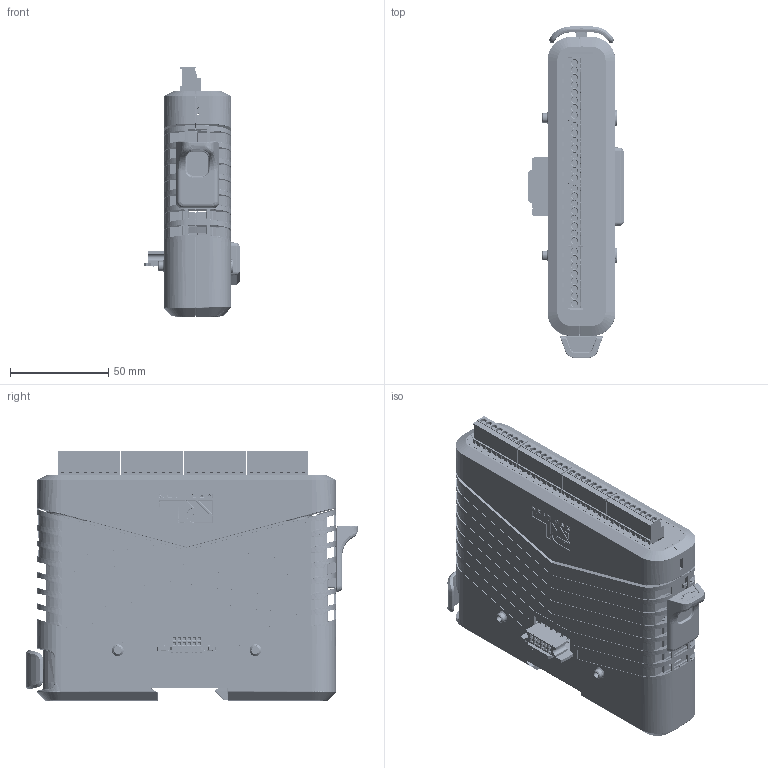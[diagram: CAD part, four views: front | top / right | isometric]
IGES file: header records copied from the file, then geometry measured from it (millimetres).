
Start section: SolidWorks IGES file using analytic representation for surfaces
Global section: file name: W:\Teams\HMI\temp_3D_Models_2013-09-17\DA_series\DAM_4conn.IGS; native system: SolidWorks 2019; preprocessor: SolidWorks 2019; author: ericp; date: 200326.091942; units: millimetre
Bounding box: 48.64 x 168.91 x 127.48 mm (x, y, z)
Surface area: 278443.7 mm2 (no closed solid volume)
Topology: 0 solids, 0 shells, 20429 faces, 166600 edges, 166093 vertices
Faces by surface type: bspline 13904, revolution 6525
